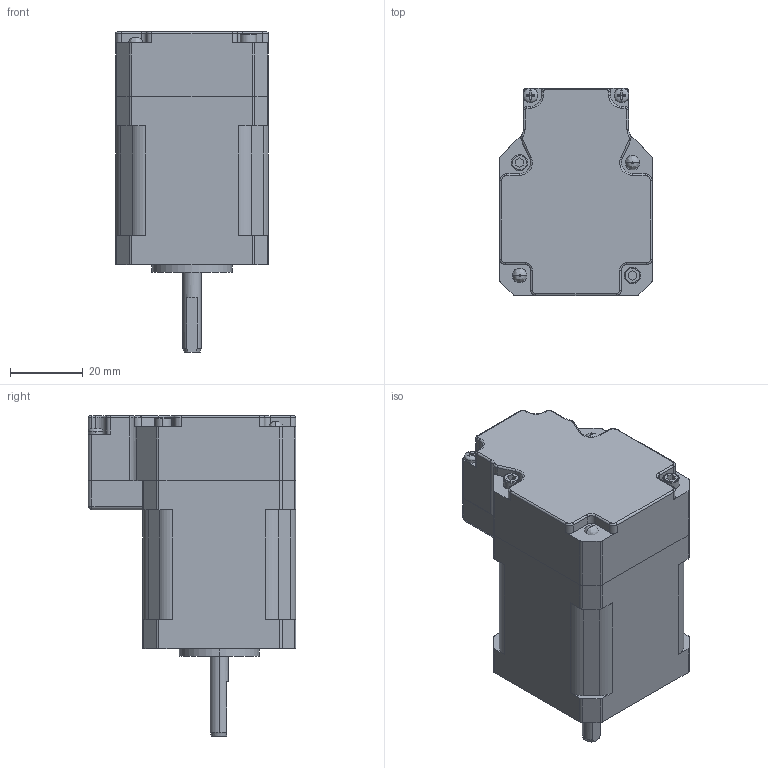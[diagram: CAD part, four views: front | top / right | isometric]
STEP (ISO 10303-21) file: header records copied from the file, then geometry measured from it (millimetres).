
FILE_DESCRIPTION((''),'2;1');
FILE_NAME('QL42HS47_ASM','2021-09-04T15:43:52',('qingl'),(''),'CREO PARAMETRIC BY PTC INC, 2019224','CREO PARAMETRIC BY PTC INC, 2019224','');
FILE_SCHEMA(('AUTOMOTIVE_DESIGN { 1 0 10303 214 1 1 1 1 }'));
Length unit declared in the file: millimetre
Products named in the file (10): ABCD0E94C2B2YBYA_1; ABCD0E94C2B2YBYA_2; ABCD0E94C2B2YBYA_3; ABCD0E94C2B2YBYA_4; ABCD0E94C2B2YBYA_5; ABCD0E94C2B2YBYA_6; ABCD0E94C2B2YBYA_7; ABCD0E94C2B2YBYA_8; ABCD0E94C2B2YBYA_ASM; QL42HS47_ASM
Assembly tree (9 placements, depth 3):
  QL42HS47_ASM
    ABCD0E94C2B2YBYA_ASM
      ABCD0E94C2B2YBYA_1
      ABCD0E94C2B2YBYA_2
      ABCD0E94C2B2YBYA_3
      ABCD0E94C2B2YBYA_4
      ABCD0E94C2B2YBYA_5
      ABCD0E94C2B2YBYA_6
      ABCD0E94C2B2YBYA_7
      ABCD0E94C2B2YBYA_8
Bounding box: 42 x 57.01 x 88 mm (x, y, z)
Volume: 120963 mm3; surface area: 20929.2 mm2
Topology: 8 solids, 8 shells, 460 faces, 1243 edges, 807 vertices
Faces by surface type: cylinder 283, plane 126, torus 24, bspline 16, cone 5, revolution 4, sphere 2
Entity records: 23885 total; most frequent: CARTESIAN_POINT 9872, ORIENTED_EDGE 2474, DIRECTION 2051, EDGE_CURVE 1237, VERTEX_POINT 807, AXIS2_PLACEMENT_3D 761, VECTOR 525, LINE 525
